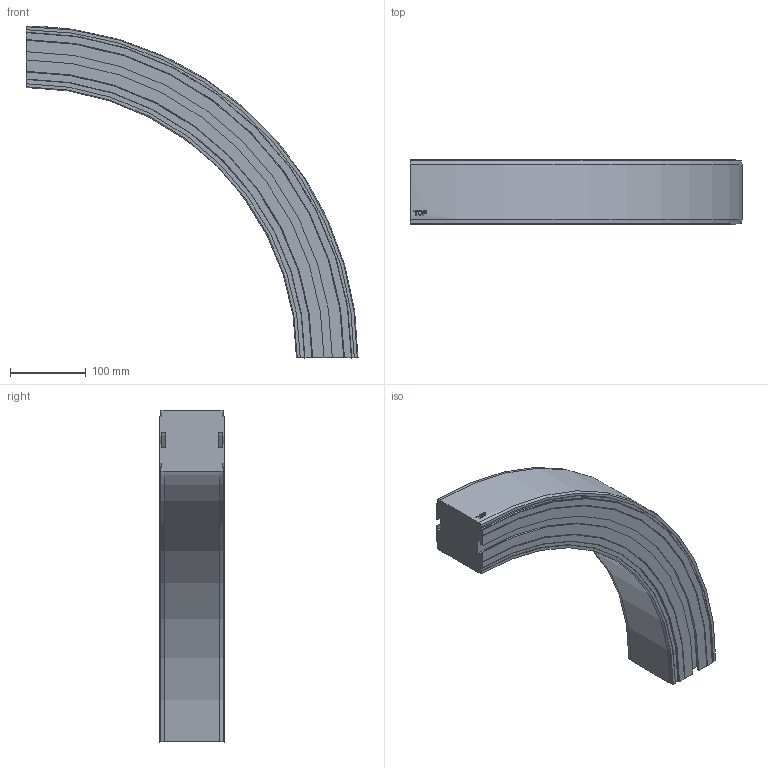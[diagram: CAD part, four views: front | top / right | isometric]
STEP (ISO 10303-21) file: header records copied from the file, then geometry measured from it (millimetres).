
FILE_DESCRIPTION((''),'2;1');
FILE_NAME('C:\Vault Klient\Projekt\Koncept konstruktion\Serie 830 Balk\830-5640_DOWN.stp','2009-12-08T10:17:16',('Mathias'),(''),'Autodesk Inventor 2010','Autodesk Inventor 2010','');
FILE_SCHEMA(('CONFIG_CONTROL_DESIGN'));
Length unit declared in the file: millimetre
Products named in the file (1): 830-5640_DOWN
Bounding box: 439.5 x 86 x 439.5 mm (x, y, z)
Volume: 4163390.6 mm3; surface area: 269382.7 mm2
Topology: 1 solids, 1 shells, 93 faces, 258 edges, 172 vertices
Faces by surface type: plane 40, cylinder 23, bspline 14, cone 12, torus 4
Entity records: 3397 total; most frequent: CARTESIAN_POINT 962, ORIENTED_EDGE 516, DIRECTION 472, EDGE_CURVE 258, VERTEX_POINT 172, AXIS2_PLACEMENT_3D 162, VECTOR 148, LINE 148
